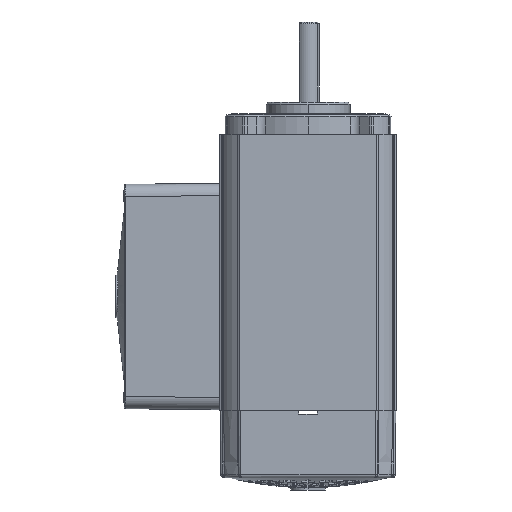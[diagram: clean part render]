
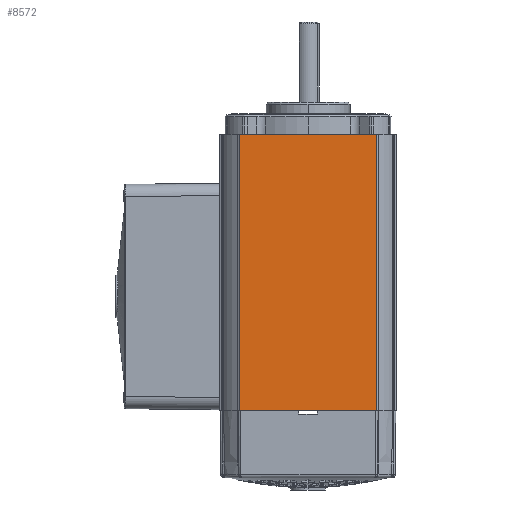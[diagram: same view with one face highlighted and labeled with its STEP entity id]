
A CAD part, left-side view. The second image highlights one B-rep face of the part: STEP entity #8572.
In plain terms, the highlighted planar face has unit normal (-1, 0, 0).
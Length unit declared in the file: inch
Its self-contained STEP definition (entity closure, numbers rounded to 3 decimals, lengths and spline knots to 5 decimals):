
#8512 = VERTEX_POINT ( 'NONE', #32990 ) ;
#8514 = EDGE_CURVE ( 'NONE', #8515, #8512, #32989, .T. ) ;
#8515 = VERTEX_POINT ( 'NONE', #32985 ) ;
#8572 = ADVANCED_FACE ( 'NONE', ( #33075 ), #33134, .F. ) ;
#8573 = EDGE_LOOP ( 'NONE', ( #8574, #8575, #8578, #8581 ) ) ;
#8574 = ORIENTED_EDGE ( 'NONE', *, *, #8514, .T. ) ;
#8575 = ORIENTED_EDGE ( 'NONE', *, *, #8576, .F. ) ;
#8576 = EDGE_CURVE ( 'NONE', #8577, #8512, #33129, .T. ) ;
#8577 = VERTEX_POINT ( 'NONE', #33125 ) ;
#8578 = ORIENTED_EDGE ( 'NONE', *, *, #8579, .T. ) ;
#8579 = EDGE_CURVE ( 'NONE', #8577, #8580, #33124, .T. ) ;
#8580 = VERTEX_POINT ( 'NONE', #33120 ) ;
#8581 = ORIENTED_EDGE ( 'NONE', *, *, #8582, .T. ) ;
#8582 = EDGE_CURVE ( 'NONE', #8580, #8515, #33119, .T. ) ;
#32985 = CARTESIAN_POINT ( 'NONE',  ( -1.442, -1.1275, 0. ) ) ;
#32986 = DIRECTION ( 'NONE',  ( 0., 0., 1. ) ) ;
#32987 = VECTOR ( 'NONE', #32986, 39.37008 ) ;
#32988 = CARTESIAN_POINT ( 'NONE',  ( -1.442, -1.1275, 4.601 ) ) ;
#32989 = LINE ( 'NONE', #32988, #32987 ) ;
#32990 = CARTESIAN_POINT ( 'NONE',  ( -1.442, -1.1275, 4.521 ) ) ;
#33075 = FACE_OUTER_BOUND ( 'NONE', #8573, .T. ) ;
#33116 = DIRECTION ( 'NONE',  ( 0., -1., 0. ) ) ;
#33117 = VECTOR ( 'NONE', #33116, 39.37008 ) ;
#33118 = CARTESIAN_POINT ( 'NONE',  ( -1.442, 1.1475, 0. ) ) ;
#33119 = LINE ( 'NONE', #33118, #33117 ) ;
#33120 = CARTESIAN_POINT ( 'NONE',  ( -1.442, 1.1275, 0. ) ) ;
#33121 = DIRECTION ( 'NONE',  ( 0., 0., -1. ) ) ;
#33122 = VECTOR ( 'NONE', #33121, 39.37008 ) ;
#33123 = CARTESIAN_POINT ( 'NONE',  ( -1.442, 1.1275, 4.601 ) ) ;
#33124 = LINE ( 'NONE', #33123, #33122 ) ;
#33125 = CARTESIAN_POINT ( 'NONE',  ( -1.442, 1.1275, 4.521 ) ) ;
#33126 = DIRECTION ( 'NONE',  ( 0., -1., 0. ) ) ;
#33127 = VECTOR ( 'NONE', #33126, 39.37008 ) ;
#33128 = CARTESIAN_POINT ( 'NONE',  ( -1.442, 1.442, 4.521 ) ) ;
#33129 = LINE ( 'NONE', #33128, #33127 ) ;
#33130 = DIRECTION ( 'NONE',  ( 0., 0., -1. ) ) ;
#33131 = DIRECTION ( 'NONE',  ( 1., 0., 0. ) ) ;
#33132 = CARTESIAN_POINT ( 'NONE',  ( -1.442, 1.1475, 4.601 ) ) ;
#33133 = AXIS2_PLACEMENT_3D ( 'NONE', #33132, #33131, #33130 ) ;
#33134 = PLANE ( 'NONE',  #33133 ) ;
